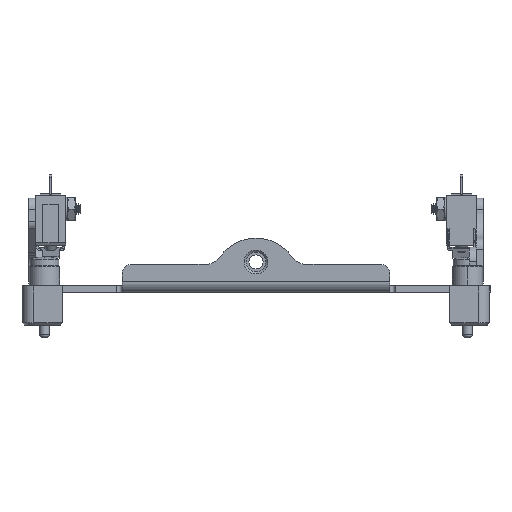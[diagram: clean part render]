
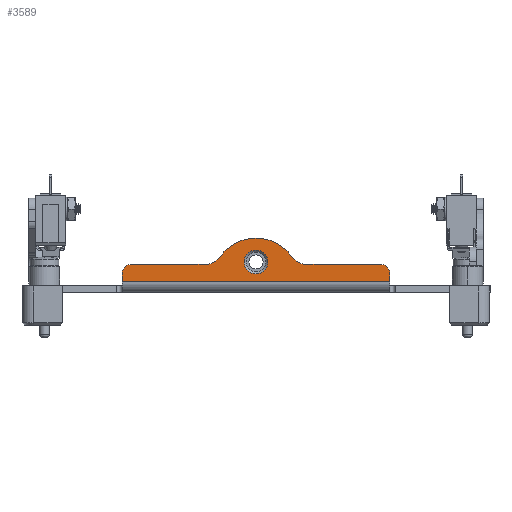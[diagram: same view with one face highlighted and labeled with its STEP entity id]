
A CAD part, front view. The second image highlights one B-rep face of the part: STEP entity #3589.
In plain terms, the highlighted planar face has unit normal (0, -1, 0).
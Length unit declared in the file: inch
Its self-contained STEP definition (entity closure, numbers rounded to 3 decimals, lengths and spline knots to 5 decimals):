
#643 = VERTEX_POINT ( 'NONE', #21611 ) ;
#1019 = CARTESIAN_POINT ( 'NONE',  ( -1.046, -1.9135, 0.17622 ) ) ;
#1031 = CARTESIAN_POINT ( 'NONE',  ( 1.126, -1.9135, 0.39276 ) ) ;
#1198 = AXIS2_PLACEMENT_3D ( 'NONE', #6744, #9111, #6874 ) ;
#1249 = DIRECTION ( 'NONE',  ( 0., 1., 0. ) ) ;
#1344 = CARTESIAN_POINT ( 'NONE',  ( -1.126, -1.9135, 0.39276 ) ) ;
#1444 = DIRECTION ( 'NONE',  ( -1., 0., 0. ) ) ;
#1532 = DIRECTION ( 'NONE',  ( 0., 0., -1. ) ) ;
#1562 = VECTOR ( 'NONE', #6216, 39.37008 ) ;
#1925 = ORIENTED_EDGE ( 'NONE', *, *, #10059, .T. ) ;
#2194 = VERTEX_POINT ( 'NONE', #21035 ) ;
#2317 = DIRECTION ( 'NONE',  ( 0., 0., -1. ) ) ;
#2684 = VERTEX_POINT ( 'NONE', #7221 ) ;
#3068 = EDGE_CURVE ( 'NONE', #25972, #2194, #24796, .T. ) ;
#3141 = DIRECTION ( 'NONE',  ( 0., 0., -1. ) ) ;
#3308 = AXIS2_PLACEMENT_3D ( 'NONE', #14388, #20846, #10327 ) ;
#3316 = CARTESIAN_POINT ( 'NONE',  ( -0.42028, -1.9135, 0.31307 ) ) ;
#3402 = DIRECTION ( 'NONE',  ( 0., 0., -1. ) ) ;
#3589 = ADVANCED_FACE ( 'NONE', ( #13302, #25994 ), #26255, .F. ) ;
#3817 = LINE ( 'NONE', #12502, #25524 ) ;
#4634 = CARTESIAN_POINT ( 'NONE',  ( 0.30791, -1.9135, 0.23496 ) ) ;
#5272 = AXIS2_PLACEMENT_3D ( 'NONE', #15968, #1249, #1532 ) ;
#5403 = CARTESIAN_POINT ( 'NONE',  ( -1.126, -1.9135, 0.17622 ) ) ;
#5414 = DIRECTION ( 'NONE',  ( 0., -1., 0. ) ) ;
#5576 = CARTESIAN_POINT ( 'NONE',  ( -0.30791, -1.9135, 0.23496 ) ) ;
#6067 = LINE ( 'NONE', #15045, #1562 ) ;
#6216 = DIRECTION ( 'NONE',  ( 1., 0., 0. ) ) ;
#6744 = CARTESIAN_POINT ( 'NONE',  ( -1.1711, -1.9135, 0.39276 ) ) ;
#6874 = DIRECTION ( 'NONE',  ( 0., 0., -1. ) ) ;
#6961 = VECTOR ( 'NONE', #11585, 39.37008 ) ;
#7221 = CARTESIAN_POINT ( 'NONE',  ( 1.046, -1.9135, 0.17622 ) ) ;
#7316 = EDGE_CURVE ( 'NONE', #643, #22689, #27287, .T. ) ;
#7350 = LINE ( 'NONE', #1031, #23162 ) ;
#7438 = VERTEX_POINT ( 'NONE', #21029 ) ;
#7887 = EDGE_CURVE ( 'NONE', #9971, #25972, #27301, .T. ) ;
#7962 = DIRECTION ( 'NONE',  ( 0., -1., 0. ) ) ;
#7971 = CARTESIAN_POINT ( 'NONE',  ( -0.42028, -1.9135, 0.17622 ) ) ;
#8164 = CARTESIAN_POINT ( 'NONE',  ( 0., -1.9135, 0.19591 ) ) ;
#8696 = AXIS2_PLACEMENT_3D ( 'NONE', #11817, #9994, #1444 ) ;
#8901 = CARTESIAN_POINT ( 'NONE',  ( 1.046, -1.9135, 0.09622 ) ) ;
#8987 = ORIENTED_EDGE ( 'NONE', *, *, #3068, .T. ) ;
#9111 = DIRECTION ( 'NONE',  ( 0., 1., 0. ) ) ;
#9785 = CARTESIAN_POINT ( 'NONE',  ( 0.42028, -1.9135, 0.17622 ) ) ;
#9971 = VERTEX_POINT ( 'NONE', #1019 ) ;
#9994 = DIRECTION ( 'NONE',  ( 0., 1., 0. ) ) ;
#10046 = ORIENTED_EDGE ( 'NONE', *, *, #17036, .F. ) ;
#10059 = EDGE_CURVE ( 'NONE', #22689, #643, #22361, .T. ) ;
#10268 = AXIS2_PLACEMENT_3D ( 'NONE', #8164, #25163, #3402 ) ;
#10327 = DIRECTION ( 'NONE',  ( -1., 0., 0. ) ) ;
#10637 = EDGE_LOOP ( 'NONE', ( #26448, #25335, #18464, #8987, #24252, #10046, #10679, #20426, #26198, #23853 ) ) ;
#10679 = ORIENTED_EDGE ( 'NONE', *, *, #20900, .T. ) ;
#11585 = DIRECTION ( 'NONE',  ( 0., 0., -1. ) ) ;
#11817 = CARTESIAN_POINT ( 'NONE',  ( 0., -1.9135, 0.02091 ) ) ;
#11937 = VERTEX_POINT ( 'NONE', #7971 ) ;
#12502 = CARTESIAN_POINT ( 'NONE',  ( -1.126, -1.9135, 0.03 ) ) ;
#12824 = DIRECTION ( 'NONE',  ( 1., 0., 0. ) ) ;
#12979 = VERTEX_POINT ( 'NONE', #4634 ) ;
#13302 = FACE_BOUND ( 'NONE', #24675, .T. ) ;
#13673 = EDGE_CURVE ( 'NONE', #12979, #21985, #15816, .T. ) ;
#14388 = CARTESIAN_POINT ( 'NONE',  ( 0.42028, -1.9135, 0.31307 ) ) ;
#14396 = DIRECTION ( 'NONE',  ( 0., 0., -1. ) ) ;
#15010 = AXIS2_PLACEMENT_3D ( 'NONE', #3316, #5414, #24378 ) ;
#15045 = CARTESIAN_POINT ( 'NONE',  ( 1.126, -1.9135, 0.17622 ) ) ;
#15049 = AXIS2_PLACEMENT_3D ( 'NONE', #8901, #7962, #2317 ) ;
#15465 = CIRCLE ( 'NONE', #15010, 0.13685 ) ;
#15475 = CARTESIAN_POINT ( 'NONE',  ( 0.0995, -1.9135, 0.19591 ) ) ;
#15562 = EDGE_CURVE ( 'NONE', #11937, #22054, #15465, .T. ) ;
#15688 = ORIENTED_EDGE ( 'NONE', *, *, #7316, .T. ) ;
#15816 = CIRCLE ( 'NONE', #3308, 0.13685 ) ;
#15956 = CARTESIAN_POINT ( 'NONE',  ( -1.126, -1.9135, 0.09622 ) ) ;
#15968 = CARTESIAN_POINT ( 'NONE',  ( 0., -1.9135, 0.19591 ) ) ;
#16495 = DIRECTION ( 'NONE',  ( 0., -1., 0. ) ) ;
#16845 = DIRECTION ( 'NONE',  ( 1., 0., 0. ) ) ;
#16914 = CARTESIAN_POINT ( 'NONE',  ( -1.046, -1.9135, 0.09622 ) ) ;
#17027 = VERTEX_POINT ( 'NONE', #27006 ) ;
#17036 = EDGE_CURVE ( 'NONE', #17027, #7438, #7350, .T. ) ;
#18287 = EDGE_CURVE ( 'NONE', #21985, #2684, #6067, .T. ) ;
#18464 = ORIENTED_EDGE ( 'NONE', *, *, #7887, .T. ) ;
#18741 = AXIS2_PLACEMENT_3D ( 'NONE', #16914, #16495, #14396 ) ;
#19691 = VECTOR ( 'NONE', #12824, 39.37008 ) ;
#20426 = ORIENTED_EDGE ( 'NONE', *, *, #18287, .F. ) ;
#20846 = DIRECTION ( 'NONE',  ( 0., -1., 0. ) ) ;
#20900 = EDGE_CURVE ( 'NONE', #17027, #2684, #27185, .T. ) ;
#21029 = CARTESIAN_POINT ( 'NONE',  ( 1.126, -1.9135, 0.03 ) ) ;
#21035 = CARTESIAN_POINT ( 'NONE',  ( -1.126, -1.9135, 0.03 ) ) ;
#21611 = CARTESIAN_POINT ( 'NONE',  ( -0.0995, -1.9135, 0.19591 ) ) ;
#21985 = VERTEX_POINT ( 'NONE', #9785 ) ;
#22054 = VERTEX_POINT ( 'NONE', #5576 ) ;
#22361 = CIRCLE ( 'NONE', #10268, 0.0995 ) ;
#22689 = VERTEX_POINT ( 'NONE', #15475 ) ;
#22784 = EDGE_CURVE ( 'NONE', #2194, #7438, #3817, .T. ) ;
#23162 = VECTOR ( 'NONE', #3141, 39.37008 ) ;
#23490 = CIRCLE ( 'NONE', #8696, 0.375 ) ;
#23680 = EDGE_CURVE ( 'NONE', #9971, #11937, #24652, .T. ) ;
#23853 = ORIENTED_EDGE ( 'NONE', *, *, #26626, .F. ) ;
#24252 = ORIENTED_EDGE ( 'NONE', *, *, #22784, .T. ) ;
#24378 = DIRECTION ( 'NONE',  ( 1., 0., 0. ) ) ;
#24652 = LINE ( 'NONE', #5403, #19691 ) ;
#24675 = EDGE_LOOP ( 'NONE', ( #15688, #1925 ) ) ;
#24796 = LINE ( 'NONE', #1344, #6961 ) ;
#25163 = DIRECTION ( 'NONE',  ( 0., 1., 0. ) ) ;
#25335 = ORIENTED_EDGE ( 'NONE', *, *, #23680, .F. ) ;
#25524 = VECTOR ( 'NONE', #16845, 39.37008 ) ;
#25972 = VERTEX_POINT ( 'NONE', #15956 ) ;
#25994 = FACE_OUTER_BOUND ( 'NONE', #10637, .T. ) ;
#26198 = ORIENTED_EDGE ( 'NONE', *, *, #13673, .F. ) ;
#26255 = PLANE ( 'NONE',  #1198 ) ;
#26448 = ORIENTED_EDGE ( 'NONE', *, *, #15562, .F. ) ;
#26626 = EDGE_CURVE ( 'NONE', #22054, #12979, #23490, .T. ) ;
#27006 = CARTESIAN_POINT ( 'NONE',  ( 1.126, -1.9135, 0.09622 ) ) ;
#27185 = CIRCLE ( 'NONE', #15049, 0.08 ) ;
#27287 = CIRCLE ( 'NONE', #5272, 0.0995 ) ;
#27301 = CIRCLE ( 'NONE', #18741, 0.08 ) ;
